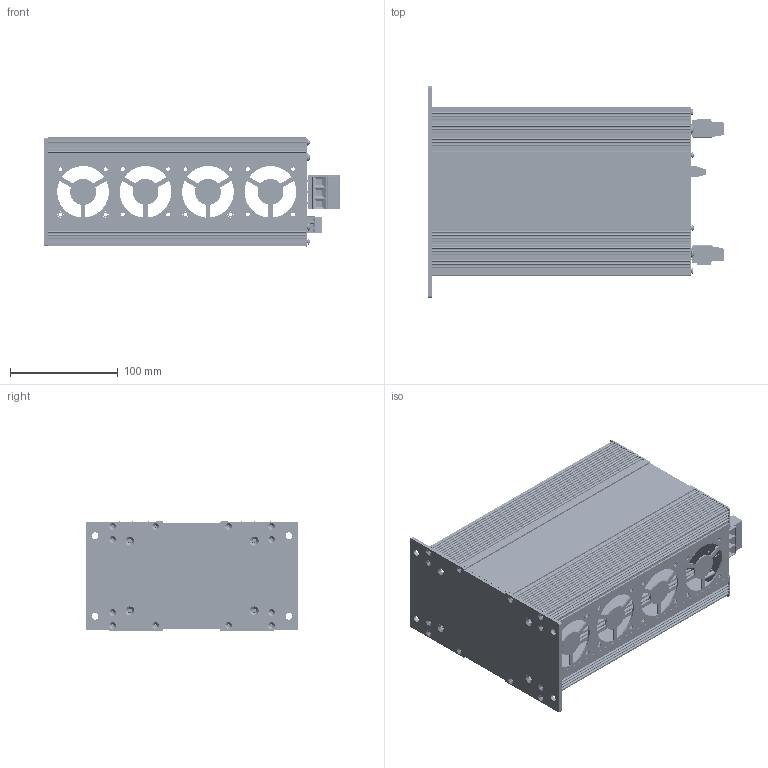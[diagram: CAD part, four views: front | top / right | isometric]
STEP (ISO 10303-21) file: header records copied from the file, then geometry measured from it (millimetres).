
FILE_DESCRIPTION(/* description */ (''),/* implementation_level */ '2;1');
FILE_NAME(/* name */ 'D:\01-KEVOLTA\PRODUITS\PROJET PRODUIT\KPS_series_A\PLAN\Boitier assemblé\KPS_SERIES_A_S.stp',/* time_stamp */ '2025-08-31T21:31:00+02:00',/* author */ ('Julien'),/* organization */ (''),/* preprocessor_version */ 'ST-DEVELOPER v18.1',/* originating_system */ 'Autodesk Inventor 2021',/* authorisation */ '');
FILE_SCHEMA (('AUTOMOTIVE_DESIGN { 1 0 10303 214 3 1 1 }'));
Products named in the file (7): KPS_SERIES_A_SAILLI; KPS_series_A; item_8000005_vis_chc_tete_bombee_m4x16_details_3; item_8000760_vis_chc_tete_bombee_m3x8_details_3; FACE_ARR_saillie; KBA-240-FAN; KPS_series_240_FAN
Assembly tree (17 placements, depth 2):
  KPS_SERIES_A_SAILLI
    KPS_series_A
    item_8000005_vis_chc_tete_bombee_m4x16_details_3  x4
    item_8000760_vis_chc_tete_bombee_m3x8_details_3  x8
    FACE_ARR_saillie
    KBA-240-FAN
    KPS_series_240_FAN  x2
Bounding box: 274.51 x 196.5 x 101.34 mm (x, y, z)
Volume: 403008.5 mm3; surface area: 440826.7 mm2
Topology: 1292 solids, 1511 shells, 8226 faces, 29726 edges, 24410 vertices
Faces by surface type: plane 4131, cylinder 4013, cone 46, torus 24, bspline 12
Full cylindrical faces by diameter (mm): 0.45 x1600, 0.457 x2, 0.5 x640, 0.55 x160, 0.6 x64, 0.8 x640, 0.9 x64, 1 x1, 1.25 x9, 1.3 x6, 1.35 x8, 1.4 x12, 1.45 x48, 1.5 x36, 2.4 x12, 2.6 x4, 3 x8, 3.15 x24, 3.2 x16, 3.5 x24, 3.65 x96, 3.7 x64, 3.8 x3, 4 x7, 4.2 x4, 4.25 x12, 4.3 x8, 5 x6, 5.6 x6, 5.7 x8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
Entity records: 254695 total; most frequent: CARTESIAN_POINT 46536, DIRECTION 45052, ORIENTED_EDGE 38331, EDGE_CURVE 22100, VERTEX_POINT 18218, AXIS2_PLACEMENT_3D 17100, CIRCLE 11210, LINE 10852
